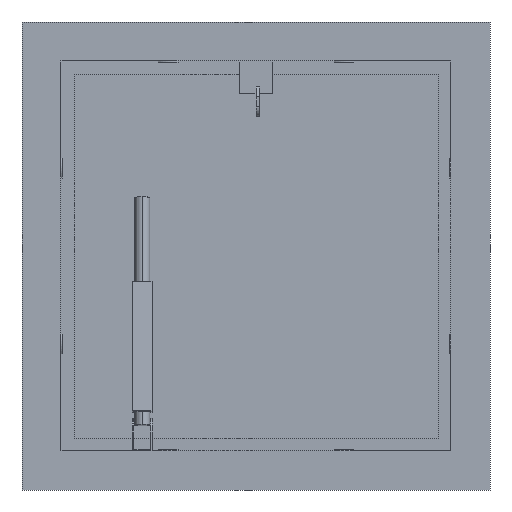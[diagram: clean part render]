
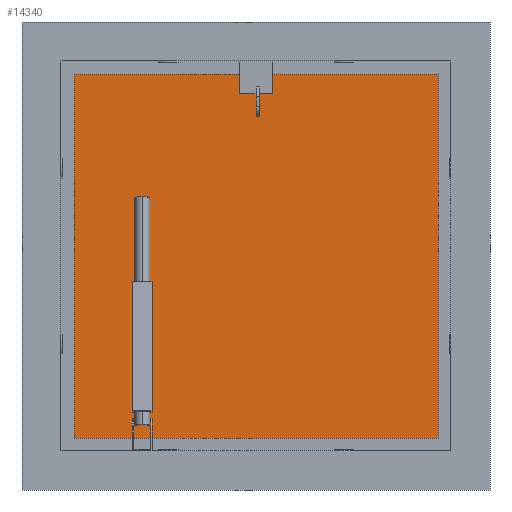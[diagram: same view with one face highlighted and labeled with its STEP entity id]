
A CAD part, front view. The second image highlights one B-rep face of the part: STEP entity #14340.
In plain terms, the highlighted planar face has unit normal (0, -1, 0).
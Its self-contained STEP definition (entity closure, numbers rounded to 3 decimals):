
#5834=DIRECTION('',(0.,0.,-1.));
#5835=VECTOR('',#5834,648.);
#5836=CARTESIAN_POINT('',(324.,74.,315.));
#5837=LINE('',#5836,#5835);
#5842=DIRECTION('',(0.,0.,-1.));
#5843=VECTOR('',#5842,30.);
#5844=CARTESIAN_POINT('',(0.,74.,245.));
#5845=LINE('',#5844,#5843);
#5846=DIRECTION('',(1.,0.,0.));
#5847=VECTOR('',#5846,5.);
#5848=CARTESIAN_POINT('',(0.,74.,215.));
#5849=LINE('',#5848,#5847);
#5850=DIRECTION('',(0.,0.,-1.));
#5851=VECTOR('',#5850,30.);
#5852=CARTESIAN_POINT('',(5.,74.,245.));
#5853=LINE('',#5852,#5851);
#5854=DIRECTION('',(1.,0.,0.));
#5855=VECTOR('',#5854,5.);
#5856=CARTESIAN_POINT('',(0.,74.,245.));
#5857=LINE('',#5856,#5855);
#5858=DIRECTION('',(-1.,0.,0.));
#5859=VECTOR('',#5858,648.);
#5860=CARTESIAN_POINT('',(324.,74.,-333.));
#5861=LINE('',#5860,#5859);
#5866=DIRECTION('',(0.,0.,1.));
#5867=VECTOR('',#5866,648.);
#5868=CARTESIAN_POINT('',(-324.,74.,-333.));
#5869=LINE('',#5868,#5867);
#5874=DIRECTION('',(1.,0.,0.));
#5875=VECTOR('',#5874,648.);
#5876=CARTESIAN_POINT('',(-324.,74.,315.));
#5877=LINE('',#5876,#5875);
#11270=CARTESIAN_POINT('',(324.,74.,315.));
#11271=CARTESIAN_POINT('',(324.,74.,-333.));
#11272=VERTEX_POINT('',#11270);
#11273=VERTEX_POINT('',#11271);
#11274=CARTESIAN_POINT('',(-324.,74.,-333.));
#11275=VERTEX_POINT('',#11274);
#11276=CARTESIAN_POINT('',(-324.,74.,315.));
#11277=VERTEX_POINT('',#11276);
#11294=CARTESIAN_POINT('',(0.,74.,245.));
#11295=VERTEX_POINT('',#11294);
#11297=CARTESIAN_POINT('',(0.,74.,215.));
#11299=VERTEX_POINT('',#11297);
#11300=CARTESIAN_POINT('',(5.,74.,245.));
#11301=VERTEX_POINT('',#11300);
#11303=CARTESIAN_POINT('',(5.,74.,215.));
#11305=VERTEX_POINT('',#11303);
#14316=CARTESIAN_POINT('',(0.,74.,0.));
#14317=DIRECTION('',(0.,1.,0.));
#14318=DIRECTION('',(1.,0.,0.));
#14319=AXIS2_PLACEMENT_3D('',#14316,#14317,#14318);
#14320=PLANE('',#14319);
#14321=ORIENTED_EDGE('',*,*,#14306,.T.);
#14323=ORIENTED_EDGE('',*,*,#14322,.T.);
#14325=ORIENTED_EDGE('',*,*,#14324,.T.);
#14327=ORIENTED_EDGE('',*,*,#14326,.T.);
#14328=EDGE_LOOP('',(#14321,#14323,#14325,#14327));
#14329=FACE_OUTER_BOUND('',#14328,.F.);
#14331=ORIENTED_EDGE('',*,*,#14330,.T.);
#14333=ORIENTED_EDGE('',*,*,#14332,.T.);
#14335=ORIENTED_EDGE('',*,*,#14334,.F.);
#14337=ORIENTED_EDGE('',*,*,#14336,.F.);
#14338=EDGE_LOOP('',(#14331,#14333,#14335,#14337));
#14339=FACE_BOUND('',#14338,.F.);
#14306=EDGE_CURVE('',#11272,#11273,#5837,.T.);
#14322=EDGE_CURVE('',#11273,#11275,#5861,.T.);
#14324=EDGE_CURVE('',#11275,#11277,#5869,.T.);
#14326=EDGE_CURVE('',#11277,#11272,#5877,.T.);
#14330=EDGE_CURVE('',#11295,#11299,#5845,.T.);
#14332=EDGE_CURVE('',#11299,#11305,#5849,.T.);
#14334=EDGE_CURVE('',#11301,#11305,#5853,.T.);
#14336=EDGE_CURVE('',#11295,#11301,#5857,.T.);
#14340=ADVANCED_FACE('',(#14329,#14339),#14320,.F.);
